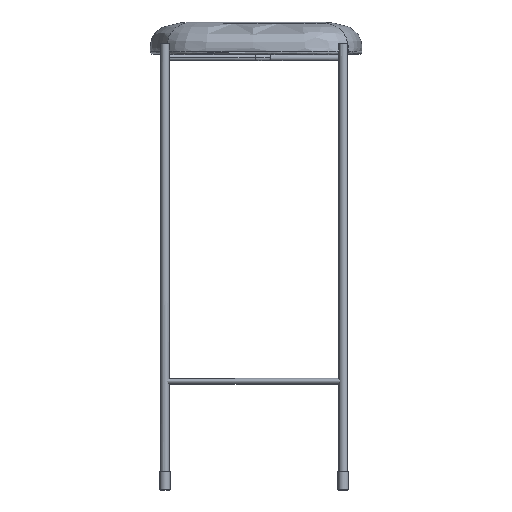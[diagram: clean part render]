
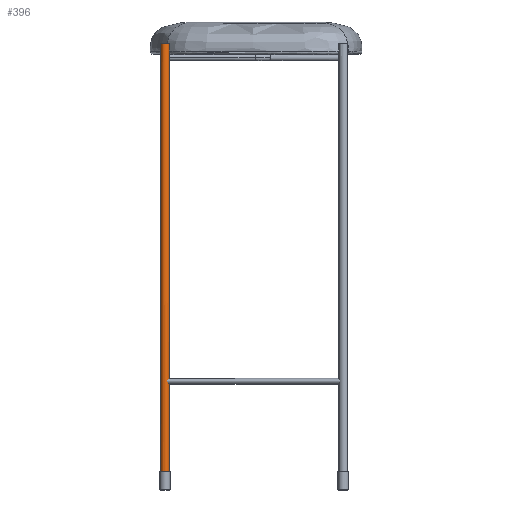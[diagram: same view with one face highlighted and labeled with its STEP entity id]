
A CAD part, left-side view. The second image highlights one B-rep face of the part: STEP entity #396.
In plain terms, the highlighted free-form (B-spline) face has degree [2, 1] with [9, 2] control points.
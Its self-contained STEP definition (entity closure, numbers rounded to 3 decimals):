
#396=ADVANCED_FACE('',(#504),#1873,.T.);
#504=FACE_OUTER_BOUND('',#620,.T.);
#620=EDGE_LOOP('',(#931,#932,#933,#934));
#931=ORIENTED_EDGE('',*,*,#1268,.T.);
#932=ORIENTED_EDGE('',*,*,#1265,.F.);
#933=ORIENTED_EDGE('',*,*,#1267,.T.);
#934=ORIENTED_EDGE('',*,*,#1269,.F.);
#1265=EDGE_CURVE('',#1718,#1722,#1411,.T.);
#1267=EDGE_CURVE('',#1718,#1717,#1568,.T.);
#1268=EDGE_CURVE('',#1721,#1722,#1569,.T.);
#1269=EDGE_CURVE('',#1721,#1717,#1412,.T.);
#1411=B_SPLINE_CURVE_WITH_KNOTS('',1,(#3810,#3811),.UNSPECIFIED.,.F.,.F.,
(2,2),(74.12,813.12),.UNSPECIFIED.);
#1412=B_SPLINE_CURVE_WITH_KNOTS('',1,(#3831,#3832),.UNSPECIFIED.,.F.,.F.,
(2,2),(1.,740.),.UNSPECIFIED.);
#1568=(
BOUNDED_CURVE()
B_SPLINE_CURVE(2,(#3815,#3816,#3817,#3818,#3819,#3820,#3821),
 .UNSPECIFIED.,.F.,.F.)
B_SPLINE_CURVE_WITH_KNOTS((3,2,2,3),(10.996,21.991,
32.987,43.982),.UNSPECIFIED.)
CURVE()
GEOMETRIC_REPRESENTATION_ITEM()
RATIONAL_B_SPLINE_CURVE((1.,0.707,1.,0.707,1.,0.707,
1.))
REPRESENTATION_ITEM('')
);
#1569=(
BOUNDED_CURVE()
B_SPLINE_CURVE(2,(#3822,#3823,#3824,#3825,#3826,#3827,#3828,#3829,#3830),
 .UNSPECIFIED.,.F.,.F.)
B_SPLINE_CURVE_WITH_KNOTS((3,2,2,2,3),(0.,7.068,
14.137,21.205,28.274),.UNSPECIFIED.)
CURVE()
GEOMETRIC_REPRESENTATION_ITEM()
RATIONAL_B_SPLINE_CURVE((1.,0.831,1.,0.831,1.,0.831,
1.,0.831,1.))
REPRESENTATION_ITEM('')
);
#1717=VERTEX_POINT('',#3804);
#1718=VERTEX_POINT('',#3805);
#1721=VERTEX_POINT('',#3808);
#1722=VERTEX_POINT('',#3809);
#1873=(
BOUNDED_SURFACE()
B_SPLINE_SURFACE(2,1,((#3725,#3726),(#3727,#3728),(#3729,#3730),(#3731,
#3732),(#3733,#3734),(#3735,#3736),(#3737,#3738),(#3739,#3740),(#3741,#3742)),
 .UNSPECIFIED.,.T.,.F.,.F.)
B_SPLINE_SURFACE_WITH_KNOTS((3,2,2,2,3),(2,2),(0.,1.571,3.142,
4.712,6.283),(0.,888.24),.UNSPECIFIED.)
GEOMETRIC_REPRESENTATION_ITEM()
RATIONAL_B_SPLINE_SURFACE(((1.,1.),(0.707,0.707),
(1.,1.),(0.707,0.707),(1.,1.),(0.707,
0.707),(1.,1.),(0.707,0.707),(1.,1.)))
REPRESENTATION_ITEM('')
SURFACE()
);
#3725=CARTESIAN_POINT('',(-203.759,215.765,-74.12));
#3726=CARTESIAN_POINT('',(-203.759,215.765,814.12));
#3727=CARTESIAN_POINT('',(-203.759,222.765,-74.12));
#3728=CARTESIAN_POINT('',(-203.759,222.765,814.12));
#3729=CARTESIAN_POINT('',(-210.759,222.765,-74.12));
#3730=CARTESIAN_POINT('',(-210.759,222.765,814.12));
#3731=CARTESIAN_POINT('',(-217.759,222.765,-74.12));
#3732=CARTESIAN_POINT('',(-217.759,222.765,814.12));
#3733=CARTESIAN_POINT('',(-217.759,215.765,-74.12));
#3734=CARTESIAN_POINT('',(-217.759,215.765,814.12));
#3735=CARTESIAN_POINT('',(-217.759,208.765,-74.12));
#3736=CARTESIAN_POINT('',(-217.759,208.765,814.12));
#3737=CARTESIAN_POINT('',(-210.759,208.765,-74.12));
#3738=CARTESIAN_POINT('',(-210.759,208.765,814.12));
#3739=CARTESIAN_POINT('',(-203.759,208.765,-74.12));
#3740=CARTESIAN_POINT('',(-203.759,208.765,814.12));
#3741=CARTESIAN_POINT('',(-203.759,215.765,-74.12));
#3742=CARTESIAN_POINT('',(-203.759,215.765,814.12));
#3804=CARTESIAN_POINT('',(-210.759,208.765,0.));
#3805=CARTESIAN_POINT('',(-203.759,215.765,0.));
#3808=CARTESIAN_POINT('',(-210.759,208.765,739.));
#3809=CARTESIAN_POINT('',(-203.759,215.765,739.));
#3810=CARTESIAN_POINT('',(-203.759,215.765,0.));
#3811=CARTESIAN_POINT('',(-203.759,215.765,739.));
#3815=CARTESIAN_POINT('',(-203.759,215.765,0.));
#3816=CARTESIAN_POINT('',(-203.759,222.765,0.));
#3817=CARTESIAN_POINT('',(-210.759,222.765,0.));
#3818=CARTESIAN_POINT('',(-217.759,222.765,0.));
#3819=CARTESIAN_POINT('',(-217.759,215.765,0.));
#3820=CARTESIAN_POINT('',(-217.759,208.765,0.));
#3821=CARTESIAN_POINT('',(-210.759,208.765,0.));
#3822=CARTESIAN_POINT('',(-210.759,208.765,739.));
#3823=CARTESIAN_POINT('',(-215.437,208.764,739.));
#3824=CARTESIAN_POINT('',(-217.227,213.086,739.));
#3825=CARTESIAN_POINT('',(-219.017,217.407,739.));
#3826=CARTESIAN_POINT('',(-215.71,220.715,739.));
#3827=CARTESIAN_POINT('',(-212.402,224.022,739.));
#3828=CARTESIAN_POINT('',(-208.081,222.233,739.));
#3829=CARTESIAN_POINT('',(-203.759,220.443,739.));
#3830=CARTESIAN_POINT('',(-203.759,215.765,739.));
#3831=CARTESIAN_POINT('',(-210.759,208.765,739.));
#3832=CARTESIAN_POINT('',(-210.759,208.765,0.));
